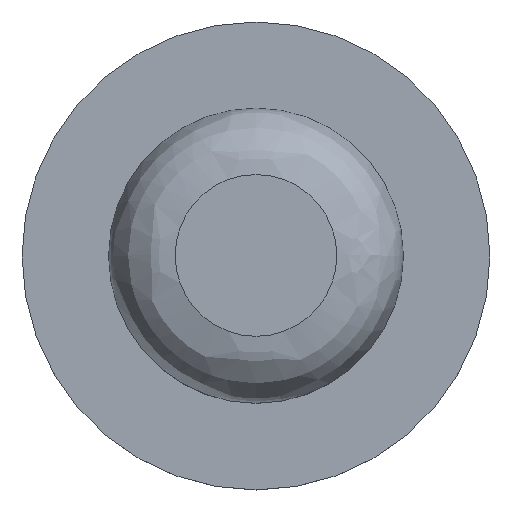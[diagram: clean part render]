
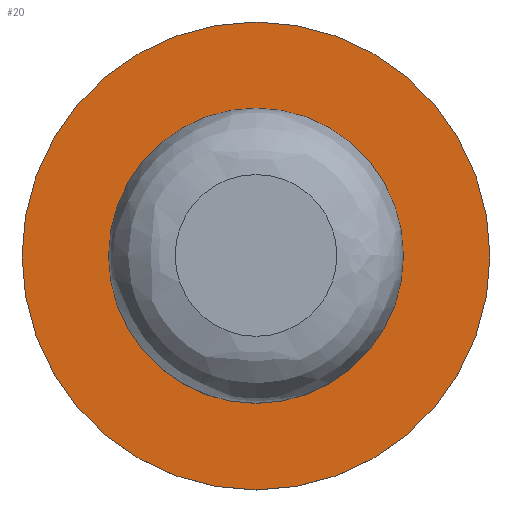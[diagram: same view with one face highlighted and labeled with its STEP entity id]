
A CAD part, top view. The second image highlights one B-rep face of the part: STEP entity #20.
In plain terms, the highlighted planar face has unit normal (0, 0, 1).
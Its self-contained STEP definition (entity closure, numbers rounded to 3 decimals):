
#15=FACE_BOUND('',#44,.T.);
#20=ADVANCED_FACE('',(#31,#15),#148,.T.);
#31=FACE_OUTER_BOUND('',#43,.T.);
#43=EDGE_LOOP('',(#65));
#44=EDGE_LOOP('',(#66));
#65=ORIENTED_EDGE('',*,*,#93,.T.);
#66=ORIENTED_EDGE('',*,*,#96,.T.);
#93=EDGE_CURVE('',#133,#133,#127,.T.);
#96=EDGE_CURVE('',#134,#134,#129,.T.);
#127=CIRCLE('',#255,3.514);
#129=CIRCLE('',#257,2.214);
#133=VERTEX_POINT('',#326);
#134=VERTEX_POINT('',#327);
#148=PLANE('',#248);
#248=AXIS2_PLACEMENT_3D('',#292,#267,$);
#255=AXIS2_PLACEMENT_3D($,#341,#275,#276);
#257=AXIS2_PLACEMENT_3D($,#345,#279,#280);
#267=DIRECTION('',(0.,0.,1.));
#275=DIRECTION('',(0.,0.,1.));
#276=DIRECTION('',(1.,0.,0.));
#279=DIRECTION('',(0.,0.,-1.));
#280=DIRECTION('',(1.,0.,0.));
#292=CARTESIAN_POINT('',(-16.014,43.486,4.64));
#326=CARTESIAN_POINT('',(-8.986,47.,4.64));
#327=CARTESIAN_POINT('',(-10.286,47.,4.64));
#341=CARTESIAN_POINT('',(-12.5,47.,4.64));
#345=CARTESIAN_POINT('',(-12.5,47.,4.64));
